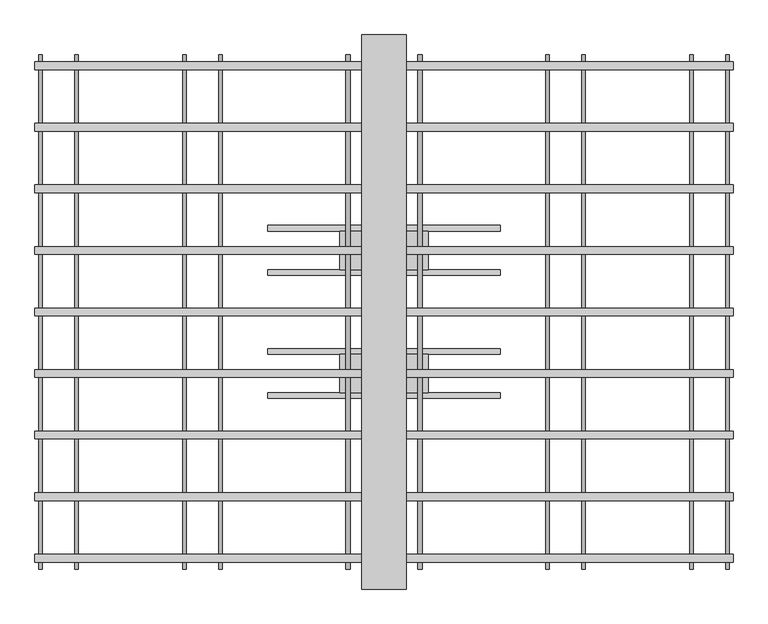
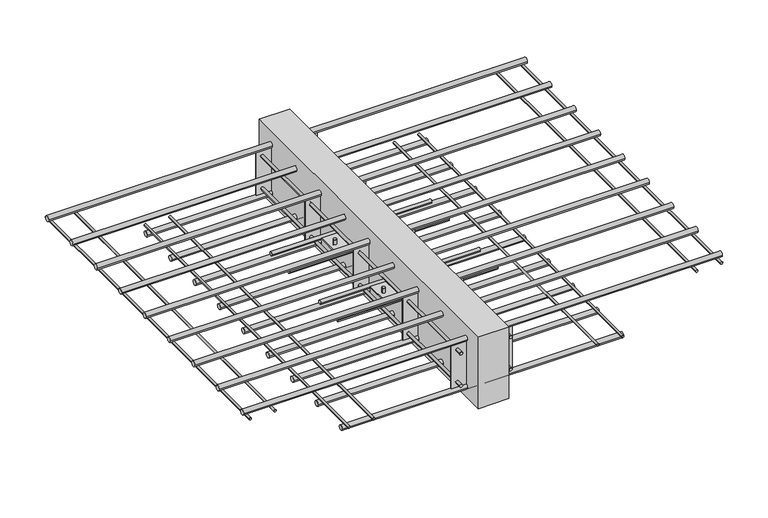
"""IFC4 building model written with IfcOpenShell, lengths in millimetres: proxy geometry, ACINOXplus_Typenreihe_K : KG+ S2."""

from ifc_helpers import new_model, si_unit, point, frame, frame_2d, origin, place, context, project, spatial, polyline, circle_curve, trimmed, segment, composite_curve, outline, extrude, source, transform, mapped, element, save
from ifc_brep_helpers import plane_surface, cylinder_surface, advanced_brep


def generic_models_3308a539(model_context):
    return source(origin(), model_context, "Body", "SolidModel", [
        extrude(outline(composite_curve([segment(trimmed(circle_curve(frame_2d((-151.1111111, -104.0)), 5.0), [point((-156.1111111, -104.0))], [point((-146.1111111, -104.0))], False, "CARTESIAN"), True, "CONTINUOUS"), segment(trimmed(circle_curve(frame_2d((-151.1111111, -104.0)), 5.0), [point((-146.1111111, -104.0))], [point((-156.1111111, -104.0))], False, "CARTESIAN"), True, "CONTINUOUS")], self_intersect=False)), frame((-210.0, 0.0, 0.0), z_axis=(1.0, 0.0, 0.0), x_axis=(0.0, 1.0, 0.0)), (0.0, 0.0, 1.0), 420.0),
        extrude(outline(composite_curve([segment(trimmed(circle_curve(frame_2d((-71.1111111, -104.0)), 5.0), [point((-76.1111111, -104.0))], [point((-66.1111111, -104.0))], False, "CARTESIAN"), True, "CONTINUOUS"), segment(trimmed(circle_curve(frame_2d((-71.1111111, -104.0)), 5.0), [point((-66.1111111, -104.0))], [point((-76.1111111, -104.0))], False, "CARTESIAN"), True, "CONTINUOUS")], self_intersect=False)), frame((-210.0, 0.0, 0.0), z_axis=(1.0, 0.0, 0.0), x_axis=(0.0, 1.0, 0.0)), (0.0, 0.0, 1.0), 420.0),
        advanced_brep(
        [(-69.0, -111.1111111, -89.0), (-61.0, -111.1111111, -89.0), (61.0, -111.1111111, -89.0), (69.0, -111.1111111, -89.0), (-69.0, -111.1111111, -119.0), (-61.0, -111.1111111, -119.0), (61.0, -111.1111111, -119.0), (69.0, -111.1111111, -119.0), (-69.0, -111.1111111, -102.5), (-61.0, -111.1111111, -102.5), (-61.0, -111.1111111, -105.5), (-69.0, -111.1111111, -105.5), (61.0, -111.1111111, -102.5), (69.0, -111.1111111, -102.5), (69.0, -111.1111111, -105.5), (61.0, -111.1111111, -105.5), (80.0, -76.1111111, -102.5), (-80.0, -76.1111111, -102.5), (-80.0, -146.1111111, -102.5), (80.0, -146.1111111, -102.5), (80.0, -76.1111111, -105.5), (80.0, -146.1111111, -105.5), (-80.0, -146.1111111, -105.5), (-80.0, -76.1111111, -105.5)],
        [
            (0, 1, circle_curve(frame((-65.0, -111.1111111, -89.0), z_axis=(0.0, 0.0, 1.0), x_axis=(1.0, 0.0, 0.0)), 4.0)),
            (1, 0, circle_curve(frame((-65.0, -111.1111111, -89.0), z_axis=(0.0, 0.0, 1.0), x_axis=(1.0, 0.0, 0.0)), 4.0)),
            (2, 3, circle_curve(frame((65.0, -111.1111111, -89.0), z_axis=(0.0, 0.0, 1.0), x_axis=(1.0, 0.0, 0.0)), 4.0)),
            (3, 2, circle_curve(frame((65.0, -111.1111111, -89.0), z_axis=(0.0, 0.0, 1.0), x_axis=(1.0, 0.0, 0.0)), 4.0)),
            (4, 5, circle_curve(frame((-65.0, -111.1111111, -119.0), z_axis=(0.0, 0.0, -1.0), x_axis=(1.0, 0.0, 0.0)), 4.0)),
            (5, 4, circle_curve(frame((-65.0, -111.1111111, -119.0), z_axis=(0.0, 0.0, -1.0), x_axis=(1.0, 0.0, 0.0)), 4.0)),
            (6, 7, circle_curve(frame((65.0, -111.1111111, -119.0), z_axis=(0.0, 0.0, -1.0), x_axis=(1.0, 0.0, 0.0)), 4.0)),
            (7, 6, circle_curve(frame((65.0, -111.1111111, -119.0), z_axis=(0.0, 0.0, -1.0), x_axis=(1.0, 0.0, 0.0)), 4.0)),
            (0, 8),
            (8, 9, circle_curve(frame((-65.0, -111.1111111, -102.5), z_axis=(0.0, 0.0, 1.0), x_axis=(1.0, 0.0, 0.0)), 4.0)),
            (9, 1),
            (5, 10),
            (10, 11, circle_curve(frame((-65.0, -111.1111111, -105.5), z_axis=(0.0, 0.0, -1.0), x_axis=(1.0, 0.0, 0.0)), 4.0)),
            (11, 4),
            (9, 8, circle_curve(frame((-65.0, -111.1111111, -102.5), z_axis=(0.0, 0.0, 1.0), x_axis=(1.0, 0.0, 0.0)), 4.0)),
            (11, 10, circle_curve(frame((-65.0, -111.1111111, -105.5), z_axis=(0.0, 0.0, -1.0), x_axis=(1.0, 0.0, 0.0)), 4.0)),
            (2, 12),
            (12, 13, circle_curve(frame((65.0, -111.1111111, -102.5), z_axis=(0.0, 0.0, 1.0), x_axis=(1.0, 0.0, 0.0)), 4.0)),
            (13, 3),
            (7, 14),
            (14, 15, circle_curve(frame((65.0, -111.1111111, -105.5), z_axis=(0.0, 0.0, -1.0), x_axis=(1.0, 0.0, 0.0)), 4.0)),
            (15, 6),
            (13, 12, circle_curve(frame((65.0, -111.1111111, -102.5), z_axis=(0.0, 0.0, 1.0), x_axis=(1.0, 0.0, 0.0)), 4.0)),
            (15, 14, circle_curve(frame((65.0, -111.1111111, -105.5), z_axis=(0.0, 0.0, -1.0), x_axis=(1.0, 0.0, 0.0)), 4.0)),
            (16, 17),
            (17, 18),
            (18, 19),
            (19, 16),
            (20, 21),
            (21, 22),
            (22, 23),
            (23, 20),
            (16, 20),
            (23, 17),
            (22, 18),
            (21, 19),
        ],
        [
            plane_surface(frame((-61.0, -111.1111111, -89.0), z_axis=(0.0, 0.0, 1.0), x_axis=(0.0, 1.0, 0.0))),
            plane_surface(frame((-61.0, -111.1111111, -119.0), z_axis=(0.0, 0.0, -1.0), x_axis=(0.0, -1.0, 0.0))),
            cylinder_surface(frame((-65.0, -111.1111111, -119.0), z_axis=(0.0, 0.0, 1.0), x_axis=(1.0, 0.0, 0.0)), 4.0),
            cylinder_surface(frame((65.0, -111.1111111, -104.0), z_axis=(0.0, 0.0, 1.0), x_axis=(1.0, 0.0, 0.0)), 4.0),
            plane_surface(frame((-80.0, -76.1111111, -102.5), z_axis=(0.0, 0.0, 1.0), x_axis=(-1.0, 0.0, 0.0))),
            plane_surface(frame((-80.0, -76.1111111, -105.5), z_axis=(0.0, 0.0, -1.0), x_axis=(1.0, 0.0, 0.0))),
            plane_surface(frame((80.0, -76.1111111, -102.5), z_axis=(0.0, 1.0, 0.0), x_axis=(0.0, 0.0, -1.0))),
            plane_surface(frame((-80.0, -76.1111111, -102.5), z_axis=(-1.0, 0.0, 0.0), x_axis=(0.0, 0.0, -1.0))),
            plane_surface(frame((-80.0, -146.1111111, -102.5), z_axis=(0.0, -1.0, 0.0), x_axis=(0.0, 0.0, -1.0))),
            plane_surface(frame((80.0, -146.1111111, -102.5), z_axis=(1.0, 0.0, 0.0), x_axis=(0.0, 0.0, -1.0))),
        ],
        [
            (0, [[1, 2]]),
            (0, [[3, 4]]),
            (1, [[5, 6]]),
            (1, [[7, 8]]),
            (2, [[-1, 9, 10, 11]]),
            (2, [[-6, 12, 13, 14]]),
            (2, [[-2, -11, 15, -9]]),
            (2, [[-5, -14, 16, -12]]),
            (3, [[-3, 17, 18, 19]]),
            (3, [[-8, 20, 21, 22]]),
            (3, [[-4, -19, 23, -17]]),
            (3, [[-7, -22, 24, -20]]),
            (4, [[25, 26, 27, 28], [-10, -15], [-18, -23]]),
            (5, [[29, 30, 31, 32], [-13, -16], [-21, -24]]),
            (6, [[-25, 33, -32, 34]]),
            (7, [[-26, -34, -31, 35]]),
            (8, [[-27, -35, -30, 36]]),
            (9, [[-28, -36, -29, -33]]),
        ],
    ),
        extrude(outline(composite_curve([segment(trimmed(circle_curve(frame_2d((71.1111111, -104.0)), 5.0), [point((66.1111111, -104.0))], [point((76.1111111, -104.0))], False, "CARTESIAN"), True, "CONTINUOUS"), segment(trimmed(circle_curve(frame_2d((71.1111111, -104.0)), 5.0), [point((76.1111111, -104.0))], [point((66.1111111, -104.0))], False, "CARTESIAN"), True, "CONTINUOUS")], self_intersect=False)), frame((-210.0, 0.0, 0.0), z_axis=(1.0, 0.0, 0.0), x_axis=(0.0, 1.0, 0.0)), (0.0, 0.0, 1.0), 420.0),
        extrude(outline(composite_curve([segment(trimmed(circle_curve(frame_2d((151.1111111, -104.0)), 5.0), [point((146.1111111, -104.0))], [point((156.1111111, -104.0))], False, "CARTESIAN"), True, "CONTINUOUS"), segment(trimmed(circle_curve(frame_2d((151.1111111, -104.0)), 5.0), [point((156.1111111, -104.0))], [point((146.1111111, -104.0))], False, "CARTESIAN"), True, "CONTINUOUS")], self_intersect=False)), frame((-210.0, 0.0, 0.0), z_axis=(1.0, 0.0, 0.0), x_axis=(0.0, 1.0, 0.0)), (0.0, 0.0, 1.0), 420.0),
        advanced_brep(
        [(-69.0, 111.1111111, -89.0), (-61.0, 111.1111111, -89.0), (61.0, 111.1111111, -89.0), (69.0, 111.1111111, -89.0), (-69.0, 111.1111111, -119.0), (-61.0, 111.1111111, -119.0), (61.0, 111.1111111, -119.0), (69.0, 111.1111111, -119.0), (-69.0, 111.1111111, -102.5), (-61.0, 111.1111111, -102.5), (-61.0, 111.1111111, -105.5), (-69.0, 111.1111111, -105.5), (61.0, 111.1111111, -102.5), (69.0, 111.1111111, -102.5), (69.0, 111.1111111, -105.5), (61.0, 111.1111111, -105.5), (80.0, 146.1111111, -102.5), (-80.0, 146.1111111, -102.5), (-80.0, 76.1111111, -102.5), (80.0, 76.1111111, -102.5), (80.0, 146.1111111, -105.5), (80.0, 76.1111111, -105.5), (-80.0, 76.1111111, -105.5), (-80.0, 146.1111111, -105.5)],
        [
            (0, 1, circle_curve(frame((-65.0, 111.1111111, -89.0), z_axis=(0.0, 0.0, 1.0), x_axis=(1.0, 0.0, 0.0)), 4.0)),
            (1, 0, circle_curve(frame((-65.0, 111.1111111, -89.0), z_axis=(0.0, 0.0, 1.0), x_axis=(1.0, 0.0, 0.0)), 4.0)),
            (2, 3, circle_curve(frame((65.0, 111.1111111, -89.0), z_axis=(0.0, 0.0, 1.0), x_axis=(1.0, 0.0, 0.0)), 4.0)),
            (3, 2, circle_curve(frame((65.0, 111.1111111, -89.0), z_axis=(0.0, 0.0, 1.0), x_axis=(1.0, 0.0, 0.0)), 4.0)),
            (4, 5, circle_curve(frame((-65.0, 111.1111111, -119.0), z_axis=(0.0, 0.0, -1.0), x_axis=(1.0, 0.0, 0.0)), 4.0)),
            (5, 4, circle_curve(frame((-65.0, 111.1111111, -119.0), z_axis=(0.0, 0.0, -1.0), x_axis=(1.0, 0.0, 0.0)), 4.0)),
            (6, 7, circle_curve(frame((65.0, 111.1111111, -119.0), z_axis=(0.0, 0.0, -1.0), x_axis=(1.0, 0.0, 0.0)), 4.0)),
            (7, 6, circle_curve(frame((65.0, 111.1111111, -119.0), z_axis=(0.0, 0.0, -1.0), x_axis=(1.0, 0.0, 0.0)), 4.0)),
            (0, 8),
            (8, 9, circle_curve(frame((-65.0, 111.1111111, -102.5), z_axis=(0.0, 0.0, 1.0), x_axis=(1.0, 0.0, 0.0)), 4.0)),
            (9, 1),
            (5, 10),
            (10, 11, circle_curve(frame((-65.0, 111.1111111, -105.5), z_axis=(0.0, 0.0, -1.0), x_axis=(1.0, 0.0, 0.0)), 4.0)),
            (11, 4),
            (9, 8, circle_curve(frame((-65.0, 111.1111111, -102.5), z_axis=(0.0, 0.0, 1.0), x_axis=(1.0, 0.0, 0.0)), 4.0)),
            (11, 10, circle_curve(frame((-65.0, 111.1111111, -105.5), z_axis=(0.0, 0.0, -1.0), x_axis=(1.0, 0.0, 0.0)), 4.0)),
            (2, 12),
            (12, 13, circle_curve(frame((65.0, 111.1111111, -102.5), z_axis=(0.0, 0.0, 1.0), x_axis=(1.0, 0.0, 0.0)), 4.0)),
            (13, 3),
            (7, 14),
            (14, 15, circle_curve(frame((65.0, 111.1111111, -105.5), z_axis=(0.0, 0.0, -1.0), x_axis=(1.0, 0.0, 0.0)), 4.0)),
            (15, 6),
            (13, 12, circle_curve(frame((65.0, 111.1111111, -102.5), z_axis=(0.0, 0.0, 1.0), x_axis=(1.0, 0.0, 0.0)), 4.0)),
            (15, 14, circle_curve(frame((65.0, 111.1111111, -105.5), z_axis=(0.0, 0.0, -1.0), x_axis=(1.0, 0.0, 0.0)), 4.0)),
            (16, 17),
            (17, 18),
            (18, 19),
            (19, 16),
            (20, 21),
            (21, 22),
            (22, 23),
            (23, 20),
            (16, 20),
            (23, 17),
            (22, 18),
            (21, 19),
        ],
        [
            plane_surface(frame((-61.0, 111.1111111, -89.0), z_axis=(0.0, 0.0, 1.0), x_axis=(0.0, 1.0, 0.0))),
            plane_surface(frame((-61.0, 111.1111111, -119.0), z_axis=(0.0, 0.0, -1.0), x_axis=(0.0, -1.0, 0.0))),
            cylinder_surface(frame((-65.0, 111.1111111, -119.0), z_axis=(0.0, 0.0, 1.0), x_axis=(1.0, 0.0, 0.0)), 4.0),
            cylinder_surface(frame((65.0, 111.1111111, -104.0), z_axis=(0.0, 0.0, 1.0), x_axis=(1.0, 0.0, 0.0)), 4.0),
            plane_surface(frame((-80.0, 146.1111111, -102.5), z_axis=(0.0, 0.0, 1.0), x_axis=(-1.0, 0.0, 0.0))),
            plane_surface(frame((-80.0, 146.1111111, -105.5), z_axis=(0.0, 0.0, -1.0), x_axis=(1.0, 0.0, 0.0))),
            plane_surface(frame((80.0, 146.1111111, -102.5), z_axis=(0.0, 1.0, 0.0), x_axis=(0.0, 0.0, -1.0))),
            plane_surface(frame((-80.0, 146.1111111, -102.5), z_axis=(-1.0, 0.0, 0.0), x_axis=(0.0, 0.0, -1.0))),
            plane_surface(frame((-80.0, 76.1111111, -102.5), z_axis=(0.0, -1.0, 0.0), x_axis=(0.0, 0.0, -1.0))),
            plane_surface(frame((80.0, 76.1111111, -102.5), z_axis=(1.0, 0.0, 0.0), x_axis=(0.0, 0.0, -1.0))),
        ],
        [
            (0, [[1, 2]]),
            (0, [[3, 4]]),
            (1, [[5, 6]]),
            (1, [[7, 8]]),
            (2, [[-1, 9, 10, 11]]),
            (2, [[-6, 12, 13, 14]]),
            (2, [[-2, -11, 15, -9]]),
            (2, [[-5, -14, 16, -12]]),
            (3, [[-3, 17, 18, 19]]),
            (3, [[-8, 20, 21, 22]]),
            (3, [[-4, -19, 23, -17]]),
            (3, [[-7, -22, 24, -20]]),
            (4, [[25, 26, 27, 28], [-10, -15], [-18, -23]]),
            (5, [[29, 30, 31, 32], [-13, -16], [-21, -24]]),
            (6, [[-25, 33, -32, 34]]),
            (7, [[-26, -34, -31, 35]]),
            (8, [[-27, -35, -30, 36]]),
            (9, [[-28, -36, -29, -33]]),
        ],
    ),
        extrude(outline(polyline([(40.0, 500.0), (40.0, -500.0), (-40.0, -500.0), (-40.0, 500.0), (40.0, 500.0)])), frame((0.0, 0.0, -200.0), z_axis=(0.0, 0.0, 1.0), x_axis=(1.0, 0.0, 0.0)), (0.0, 0.0, 1.0), 200.0),
        extrude(outline(polyline([(80.0, -220.7222222), (80.0, -223.7222222), (-80.0, -223.7222222), (-80.0, -220.7222222), (80.0, -220.7222222)])), frame((0.0, 0.0, -164.0), z_axis=(0.0, 0.0, 1.0), x_axis=(1.0, 0.0, 0.0)), (0.0, 0.0, 1.0), 120.0),
        extrude(outline(polyline([(80.0, 1.5), (80.0, -1.5), (-80.0, -1.5), (-80.0, 1.5), (80.0, 1.5)])), frame((0.0, 0.0, -164.0), z_axis=(0.0, 0.0, 1.0), x_axis=(1.0, 0.0, 0.0)), (0.0, 0.0, 1.0), 120.0),
        extrude(outline(polyline([(80.0, 223.7222222), (80.0, 220.7222222), (-80.0, 220.7222222), (-80.0, 223.7222222), (80.0, 223.7222222)])), frame((0.0, 0.0, -164.0), z_axis=(0.0, 0.0, 1.0), x_axis=(1.0, 0.0, 0.0)), (0.0, 0.0, 1.0), 120.0),
        extrude(outline(polyline([(80.0, -442.9444444), (80.0, -445.9444444), (-80.0, -445.9444444), (-80.0, -442.9444444), (80.0, -442.9444444)])), frame((0.0, 0.0, -164.0), z_axis=(0.0, 0.0, 1.0), x_axis=(1.0, 0.0, 0.0)), (0.0, 0.0, 1.0), 120.0),
        extrude(outline(polyline([(80.0, 445.9444444), (80.0, 442.9444444), (-80.0, 442.9444444), (-80.0, 445.9444444), (80.0, 445.9444444)])), frame((0.0, 0.0, -164.0), z_axis=(0.0, 0.0, 1.0), x_axis=(1.0, 0.0, 0.0)), (0.0, 0.0, 1.0), 120.0),
        extrude(outline(composite_curve([segment(trimmed(circle_curve(frame_2d((-149.0, -65.0)), 4.0), [point((-149.0, -61.0))], [point((-149.0, -69.0))], False, "CARTESIAN"), True, "CONTINUOUS"), segment(trimmed(circle_curve(frame_2d((-149.0, -65.0)), 4.0), [point((-149.0, -69.0))], [point((-149.0, -61.0))], False, "CARTESIAN"), True, "CONTINUOUS")], self_intersect=False)), frame((0.0, -464.4444444, 0.0), z_axis=(0.0, 1.0, 0.0), x_axis=(0.0, 0.0, 1.0)), (0.0, 0.0, 1.0), 18.5),
        extrude(outline(composite_curve([segment(trimmed(circle_curve(frame_2d((-149.0, -65.0)), 4.0), [point((-149.0, -69.0))], [point((-149.0, -61.0))], False, "CARTESIAN"), True, "CONTINUOUS"), segment(trimmed(circle_curve(frame_2d((-149.0, -65.0)), 4.0), [point((-149.0, -61.0))], [point((-149.0, -69.0))], False, "CARTESIAN"), True, "CONTINUOUS")], self_intersect=False)), frame((0.0, -442.9444444, 0.0), z_axis=(0.0, 1.0, 0.0), x_axis=(0.0, 0.0, 1.0)), (0.0, 0.0, 1.0), 663.6666667),
        extrude(outline(composite_curve([segment(trimmed(circle_curve(frame_2d((-149.0, -65.0)), 4.0), [point((-149.0, -69.0))], [point((-149.0, -61.0))], False, "CARTESIAN"), True, "CONTINUOUS"), segment(trimmed(circle_curve(frame_2d((-149.0, -65.0)), 4.0), [point((-149.0, -61.0))], [point((-149.0, -69.0))], False, "CARTESIAN"), True, "CONTINUOUS")], self_intersect=False)), frame((0.0, 445.9444444, 0.0), z_axis=(0.0, 1.0, 0.0), x_axis=(0.0, 0.0, 1.0)), (0.0, 0.0, 1.0), 18.5),
        extrude(outline(composite_curve([segment(trimmed(circle_curve(frame_2d((-149.0, -65.0)), 4.0), [point((-149.0, -69.0))], [point((-149.0, -61.0))], False, "CARTESIAN"), True, "CONTINUOUS"), segment(trimmed(circle_curve(frame_2d((-149.0, -65.0)), 4.0), [point((-149.0, -61.0))], [point((-149.0, -69.0))], False, "CARTESIAN"), True, "CONTINUOUS")], self_intersect=False)), frame((0.0, 223.7222222, 0.0), z_axis=(0.0, 1.0, 0.0), x_axis=(0.0, 0.0, 1.0)), (0.0, 0.0, 1.0), 219.2222222),
        extrude(outline(composite_curve([segment(trimmed(circle_curve(frame_2d((-149.0, 65.0)), 4.0), [point((-149.0, 69.0))], [point((-149.0, 61.0))], False, "CARTESIAN"), True, "CONTINUOUS"), segment(trimmed(circle_curve(frame_2d((-149.0, 65.0)), 4.0), [point((-149.0, 61.0))], [point((-149.0, 69.0))], False, "CARTESIAN"), True, "CONTINUOUS")], self_intersect=False)), frame((0.0, -464.4444444, 0.0), z_axis=(0.0, 1.0, 0.0), x_axis=(0.0, 0.0, 1.0)), (0.0, 0.0, 1.0), 18.5),
        extrude(outline(composite_curve([segment(trimmed(circle_curve(frame_2d((-149.0, 65.0)), 4.0), [point((-149.0, 61.0))], [point((-149.0, 69.0))], False, "CARTESIAN"), True, "CONTINUOUS"), segment(trimmed(circle_curve(frame_2d((-149.0, 65.0)), 4.0), [point((-149.0, 69.0))], [point((-149.0, 61.0))], False, "CARTESIAN"), True, "CONTINUOUS")], self_intersect=False)), frame((0.0, -442.9444444, 0.0), z_axis=(0.0, 1.0, 0.0), x_axis=(0.0, 0.0, 1.0)), (0.0, 0.0, 1.0), 663.6666667),
        extrude(outline(composite_curve([segment(trimmed(circle_curve(frame_2d((-149.0, 65.0)), 4.0), [point((-149.0, 61.0))], [point((-149.0, 69.0))], False, "CARTESIAN"), True, "CONTINUOUS"), segment(trimmed(circle_curve(frame_2d((-149.0, 65.0)), 4.0), [point((-149.0, 69.0))], [point((-149.0, 61.0))], False, "CARTESIAN"), True, "CONTINUOUS")], self_intersect=False)), frame((0.0, 445.9444444, 0.0), z_axis=(0.0, 1.0, 0.0), x_axis=(0.0, 0.0, 1.0)), (0.0, 0.0, 1.0), 18.5),
        extrude(outline(composite_curve([segment(trimmed(circle_curve(frame_2d((-149.0, 65.0)), 4.0), [point((-149.0, 61.0))], [point((-149.0, 69.0))], False, "CARTESIAN"), True, "CONTINUOUS"), segment(trimmed(circle_curve(frame_2d((-149.0, 65.0)), 4.0), [point((-149.0, 69.0))], [point((-149.0, 61.0))], False, "CARTESIAN"), True, "CONTINUOUS")], self_intersect=False)), frame((0.0, 223.7222222, 0.0), z_axis=(0.0, 1.0, 0.0), x_axis=(0.0, 0.0, 1.0)), (0.0, 0.0, 1.0), 219.2222222),
        extrude(outline(composite_curve([segment(trimmed(circle_curve(frame_2d((-59.0, -65.0)), 4.0), [point((-59.0, -61.0))], [point((-59.0, -69.0))], False, "CARTESIAN"), True, "CONTINUOUS"), segment(trimmed(circle_curve(frame_2d((-59.0, -65.0)), 4.0), [point((-59.0, -69.0))], [point((-59.0, -61.0))], False, "CARTESIAN"), True, "CONTINUOUS")], self_intersect=False)), frame((0.0, -464.4444444, 0.0), z_axis=(0.0, 1.0, 0.0), x_axis=(0.0, 0.0, 1.0)), (0.0, 0.0, 1.0), 18.5),
        extrude(outline(composite_curve([segment(trimmed(circle_curve(frame_2d((-59.0, -65.0)), 4.0), [point((-59.0, -69.0))], [point((-59.0, -61.0))], False, "CARTESIAN"), True, "CONTINUOUS"), segment(trimmed(circle_curve(frame_2d((-59.0, -65.0)), 4.0), [point((-59.0, -61.0))], [point((-59.0, -69.0))], False, "CARTESIAN"), True, "CONTINUOUS")], self_intersect=False)), frame((0.0, -442.9444444, 0.0), z_axis=(0.0, 1.0, 0.0), x_axis=(0.0, 0.0, 1.0)), (0.0, 0.0, 1.0), 663.6666667),
        extrude(outline(composite_curve([segment(trimmed(circle_curve(frame_2d((-59.0, -65.0)), 4.0), [point((-59.0, -69.0))], [point((-59.0, -61.0))], False, "CARTESIAN"), True, "CONTINUOUS"), segment(trimmed(circle_curve(frame_2d((-59.0, -65.0)), 4.0), [point((-59.0, -61.0))], [point((-59.0, -69.0))], False, "CARTESIAN"), True, "CONTINUOUS")], self_intersect=False)), frame((0.0, 445.9444444, 0.0), z_axis=(0.0, 1.0, 0.0), x_axis=(0.0, 0.0, 1.0)), (0.0, 0.0, 1.0), 18.5),
        extrude(outline(composite_curve([segment(trimmed(circle_curve(frame_2d((-59.0, -65.0)), 4.0), [point((-59.0, -69.0))], [point((-59.0, -61.0))], False, "CARTESIAN"), True, "CONTINUOUS"), segment(trimmed(circle_curve(frame_2d((-59.0, -65.0)), 4.0), [point((-59.0, -61.0))], [point((-59.0, -69.0))], False, "CARTESIAN"), True, "CONTINUOUS")], self_intersect=False)), frame((0.0, 223.7222222, 0.0), z_axis=(0.0, 1.0, 0.0), x_axis=(0.0, 0.0, 1.0)), (0.0, 0.0, 1.0), 219.2222222),
        extrude(outline(composite_curve([segment(trimmed(circle_curve(frame_2d((-59.0, 65.0)), 4.0), [point((-59.0, 69.0))], [point((-59.0, 61.0))], False, "CARTESIAN"), True, "CONTINUOUS"), segment(trimmed(circle_curve(frame_2d((-59.0, 65.0)), 4.0), [point((-59.0, 61.0))], [point((-59.0, 69.0))], False, "CARTESIAN"), True, "CONTINUOUS")], self_intersect=False)), frame((0.0, -464.4444444, 0.0), z_axis=(0.0, 1.0, 0.0), x_axis=(0.0, 0.0, 1.0)), (0.0, 0.0, 1.0), 18.5),
        extrude(outline(composite_curve([segment(trimmed(circle_curve(frame_2d((-59.0, 65.0)), 4.0), [point((-59.0, 61.0))], [point((-59.0, 69.0))], False, "CARTESIAN"), True, "CONTINUOUS"), segment(trimmed(circle_curve(frame_2d((-59.0, 65.0)), 4.0), [point((-59.0, 69.0))], [point((-59.0, 61.0))], False, "CARTESIAN"), True, "CONTINUOUS")], self_intersect=False)), frame((0.0, -442.9444444, 0.0), z_axis=(0.0, 1.0, 0.0), x_axis=(0.0, 0.0, 1.0)), (0.0, 0.0, 1.0), 663.6666667),
        extrude(outline(composite_curve([segment(trimmed(circle_curve(frame_2d((-59.0, 65.0)), 4.0), [point((-59.0, 61.0))], [point((-59.0, 69.0))], False, "CARTESIAN"), True, "CONTINUOUS"), segment(trimmed(circle_curve(frame_2d((-59.0, 65.0)), 4.0), [point((-59.0, 69.0))], [point((-59.0, 61.0))], False, "CARTESIAN"), True, "CONTINUOUS")], self_intersect=False)), frame((0.0, 445.9444444, 0.0), z_axis=(0.0, 1.0, 0.0), x_axis=(0.0, 0.0, 1.0)), (0.0, 0.0, 1.0), 18.5),
        extrude(outline(composite_curve([segment(trimmed(circle_curve(frame_2d((-59.0, 65.0)), 4.0), [point((-59.0, 61.0))], [point((-59.0, 69.0))], False, "CARTESIAN"), True, "CONTINUOUS"), segment(trimmed(circle_curve(frame_2d((-59.0, 65.0)), 4.0), [point((-59.0, 69.0))], [point((-59.0, 61.0))], False, "CARTESIAN"), True, "CONTINUOUS")], self_intersect=False)), frame((0.0, 223.7222222, 0.0), z_axis=(0.0, 1.0, 0.0), x_axis=(0.0, 0.0, 1.0)), (0.0, 0.0, 1.0), 219.2222222),
        extrude(outline(composite_curve([segment(trimmed(circle_curve(frame_2d((222.2222222, -171.0)), 7.0), [point((215.2222222, -171.0))], [point((229.2222222, -171.0))], False, "CARTESIAN"), True, "CONTINUOUS"), segment(trimmed(circle_curve(frame_2d((222.2222222, -171.0)), 7.0), [point((229.2222222, -171.0))], [point((215.2222222, -171.0))], False, "CARTESIAN"), True, "CONTINUOUS")], self_intersect=False)), frame((-370.0, 0.0, 0.0), z_axis=(1.0, 0.0, 0.0), x_axis=(0.0, 1.0, 0.0)), (0.0, 0.0, 1.0), 740.0),
        extrude(outline(composite_curve([segment(trimmed(circle_curve(frame_2d((111.1111111, -171.0)), 7.0), [point((104.1111111, -171.0))], [point((118.1111111, -171.0))], False, "CARTESIAN"), True, "CONTINUOUS"), segment(trimmed(circle_curve(frame_2d((111.1111111, -171.0)), 7.0), [point((118.1111111, -171.0))], [point((104.1111111, -171.0))], False, "CARTESIAN"), True, "CONTINUOUS")], self_intersect=False)), frame((-370.0, 0.0, 0.0), z_axis=(1.0, 0.0, 0.0), x_axis=(0.0, 1.0, 0.0)), (0.0, 0.0, 1.0), 740.0),
        extrude(outline(composite_curve([segment(trimmed(circle_curve(frame_2d((0.0, -171.0)), 7.0), [point((-7.0, -171.0))], [point((7.0, -171.0))], False, "CARTESIAN"), True, "CONTINUOUS"), segment(trimmed(circle_curve(frame_2d((0.0, -171.0)), 7.0), [point((7.0, -171.0))], [point((-7.0, -171.0))], False, "CARTESIAN"), True, "CONTINUOUS")], self_intersect=False)), frame((-370.0, 0.0, 0.0), z_axis=(1.0, 0.0, 0.0), x_axis=(0.0, 1.0, 0.0)), (0.0, 0.0, 1.0), 740.0),
        extrude(outline(composite_curve([segment(trimmed(circle_curve(frame_2d((-111.1111111, -171.0)), 7.0), [point((-118.1111111, -171.0))], [point((-104.1111111, -171.0))], False, "CARTESIAN"), True, "CONTINUOUS"), segment(trimmed(circle_curve(frame_2d((-111.1111111, -171.0)), 7.0), [point((-104.1111111, -171.0))], [point((-118.1111111, -171.0))], False, "CARTESIAN"), True, "CONTINUOUS")], self_intersect=False)), frame((-370.0, 0.0, 0.0), z_axis=(1.0, 0.0, 0.0), x_axis=(0.0, 1.0, 0.0)), (0.0, 0.0, 1.0), 740.0),
        extrude(outline(composite_curve([segment(trimmed(circle_curve(frame_2d((-222.2222222, -171.0)), 7.0), [point((-229.2222222, -171.0))], [point((-215.2222222, -171.0))], False, "CARTESIAN"), True, "CONTINUOUS"), segment(trimmed(circle_curve(frame_2d((-222.2222222, -171.0)), 7.0), [point((-215.2222222, -171.0))], [point((-229.2222222, -171.0))], False, "CARTESIAN"), True, "CONTINUOUS")], self_intersect=False)), frame((-370.0, 0.0, 0.0), z_axis=(1.0, 0.0, 0.0), x_axis=(0.0, 1.0, 0.0)), (0.0, 0.0, 1.0), 740.0),
        extrude(outline(composite_curve([segment(trimmed(circle_curve(frame_2d((333.3333333, -171.0)), 7.0), [point((326.3333333, -171.0))], [point((340.3333333, -171.0))], False, "CARTESIAN"), True, "CONTINUOUS"), segment(trimmed(circle_curve(frame_2d((333.3333333, -171.0)), 7.0), [point((340.3333333, -171.0))], [point((326.3333333, -171.0))], False, "CARTESIAN"), True, "CONTINUOUS")], self_intersect=False)), frame((-370.0, 0.0, 0.0), z_axis=(1.0, 0.0, 0.0), x_axis=(0.0, 1.0, 0.0)), (0.0, 0.0, 1.0), 740.0),
        extrude(outline(composite_curve([segment(trimmed(circle_curve(frame_2d((444.4444444, -171.0)), 7.0), [point((437.4444444, -171.0))], [point((451.4444444, -171.0))], False, "CARTESIAN"), True, "CONTINUOUS"), segment(trimmed(circle_curve(frame_2d((444.4444444, -171.0)), 7.0), [point((451.4444444, -171.0))], [point((437.4444444, -171.0))], False, "CARTESIAN"), True, "CONTINUOUS")], self_intersect=False)), frame((-370.0, 0.0, 0.0), z_axis=(1.0, 0.0, 0.0), x_axis=(0.0, 1.0, 0.0)), (0.0, 0.0, 1.0), 740.0),
        extrude(outline(composite_curve([segment(trimmed(circle_curve(frame_2d((-333.3333333, -171.0)), 7.0), [point((-340.3333333, -171.0))], [point((-326.3333333, -171.0))], False, "CARTESIAN"), True, "CONTINUOUS"), segment(trimmed(circle_curve(frame_2d((-333.3333333, -171.0)), 7.0), [point((-326.3333333, -171.0))], [point((-340.3333333, -171.0))], False, "CARTESIAN"), True, "CONTINUOUS")], self_intersect=False)), frame((-370.0, 0.0, 0.0), z_axis=(1.0, 0.0, 0.0), x_axis=(0.0, 1.0, 0.0)), (0.0, 0.0, 1.0), 740.0),
        extrude(outline(composite_curve([segment(trimmed(circle_curve(frame_2d((-444.4444444, -171.0)), 7.0), [point((-451.4444444, -171.0))], [point((-437.4444444, -171.0))], False, "CARTESIAN"), True, "CONTINUOUS"), segment(trimmed(circle_curve(frame_2d((-444.4444444, -171.0)), 7.0), [point((-437.4444444, -171.0))], [point((-451.4444444, -171.0))], False, "CARTESIAN"), True, "CONTINUOUS")], self_intersect=False)), frame((-370.0, 0.0, 0.0), z_axis=(1.0, 0.0, 0.0), x_axis=(0.0, 1.0, 0.0)), (0.0, 0.0, 1.0), 740.0),
        extrude(outline(composite_curve([segment(trimmed(circle_curve(frame_2d((222.2222222, -37.0)), 7.0), [point((215.2222222, -37.0))], [point((229.2222222, -37.0))], False, "CARTESIAN"), True, "CONTINUOUS"), segment(trimmed(circle_curve(frame_2d((222.2222222, -37.0)), 7.0), [point((229.2222222, -37.0))], [point((215.2222222, -37.0))], False, "CARTESIAN"), True, "CONTINUOUS")], self_intersect=False)), frame((-630.0, 0.0, 0.0), z_axis=(1.0, 0.0, 0.0), x_axis=(0.0, 1.0, 0.0)), (0.0, 0.0, 1.0), 1260.0),
        extrude(outline(composite_curve([segment(trimmed(circle_curve(frame_2d((111.1111111, -37.0)), 7.0), [point((104.1111111, -37.0))], [point((118.1111111, -37.0))], False, "CARTESIAN"), True, "CONTINUOUS"), segment(trimmed(circle_curve(frame_2d((111.1111111, -37.0)), 7.0), [point((118.1111111, -37.0))], [point((104.1111111, -37.0))], False, "CARTESIAN"), True, "CONTINUOUS")], self_intersect=False)), frame((-630.0, 0.0, 0.0), z_axis=(1.0, 0.0, 0.0), x_axis=(0.0, 1.0, 0.0)), (0.0, 0.0, 1.0), 1260.0),
        extrude(outline(composite_curve([segment(trimmed(circle_curve(frame_2d((0.0, -37.0)), 7.0), [point((-7.0, -37.0))], [point((7.0, -37.0))], False, "CARTESIAN"), True, "CONTINUOUS"), segment(trimmed(circle_curve(frame_2d((0.0, -37.0)), 7.0), [point((7.0, -37.0))], [point((-7.0, -37.0))], False, "CARTESIAN"), True, "CONTINUOUS")], self_intersect=False)), frame((-630.0, 0.0, 0.0), z_axis=(1.0, 0.0, 0.0), x_axis=(0.0, 1.0, 0.0)), (0.0, 0.0, 1.0), 1260.0),
        extrude(outline(composite_curve([segment(trimmed(circle_curve(frame_2d((-111.1111111, -37.0)), 7.0), [point((-118.1111111, -37.0))], [point((-104.1111111, -37.0))], False, "CARTESIAN"), True, "CONTINUOUS"), segment(trimmed(circle_curve(frame_2d((-111.1111111, -37.0)), 7.0), [point((-104.1111111, -37.0))], [point((-118.1111111, -37.0))], False, "CARTESIAN"), True, "CONTINUOUS")], self_intersect=False)), frame((-630.0, 0.0, 0.0), z_axis=(1.0, 0.0, 0.0), x_axis=(0.0, 1.0, 0.0)), (0.0, 0.0, 1.0), 1260.0),
        extrude(outline(composite_curve([segment(trimmed(circle_curve(frame_2d((-222.2222222, -37.0)), 7.0), [point((-229.2222222, -37.0))], [point((-215.2222222, -37.0))], False, "CARTESIAN"), True, "CONTINUOUS"), segment(trimmed(circle_curve(frame_2d((-222.2222222, -37.0)), 7.0), [point((-215.2222222, -37.0))], [point((-229.2222222, -37.0))], False, "CARTESIAN"), True, "CONTINUOUS")], self_intersect=False)), frame((-630.0, 0.0, 0.0), z_axis=(1.0, 0.0, 0.0), x_axis=(0.0, 1.0, 0.0)), (0.0, 0.0, 1.0), 1260.0),
        extrude(outline(composite_curve([segment(trimmed(circle_curve(frame_2d((333.3333333, -37.0)), 7.0), [point((326.3333333, -37.0))], [point((340.3333333, -37.0))], False, "CARTESIAN"), True, "CONTINUOUS"), segment(trimmed(circle_curve(frame_2d((333.3333333, -37.0)), 7.0), [point((340.3333333, -37.0))], [point((326.3333333, -37.0))], False, "CARTESIAN"), True, "CONTINUOUS")], self_intersect=False)), frame((-630.0, 0.0, 0.0), z_axis=(1.0, 0.0, 0.0), x_axis=(0.0, 1.0, 0.0)), (0.0, 0.0, 1.0), 1260.0),
        extrude(outline(composite_curve([segment(trimmed(circle_curve(frame_2d((444.4444444, -37.0)), 7.0), [point((437.4444444, -37.0))], [point((451.4444444, -37.0))], False, "CARTESIAN"), True, "CONTINUOUS"), segment(trimmed(circle_curve(frame_2d((444.4444444, -37.0)), 7.0), [point((451.4444444, -37.0))], [point((437.4444444, -37.0))], False, "CARTESIAN"), True, "CONTINUOUS")], self_intersect=False)), frame((-630.0, 0.0, 0.0), z_axis=(1.0, 0.0, 0.0), x_axis=(0.0, 1.0, 0.0)), (0.0, 0.0, 1.0), 1260.0),
        extrude(outline(composite_curve([segment(trimmed(circle_curve(frame_2d((-333.3333333, -37.0)), 7.0), [point((-340.3333333, -37.0))], [point((-326.3333333, -37.0))], False, "CARTESIAN"), True, "CONTINUOUS"), segment(trimmed(circle_curve(frame_2d((-333.3333333, -37.0)), 7.0), [point((-326.3333333, -37.0))], [point((-340.3333333, -37.0))], False, "CARTESIAN"), True, "CONTINUOUS")], self_intersect=False)), frame((-630.0, 0.0, 0.0), z_axis=(1.0, 0.0, 0.0), x_axis=(0.0, 1.0, 0.0)), (0.0, 0.0, 1.0), 1260.0),
        extrude(outline(composite_curve([segment(trimmed(circle_curve(frame_2d((-444.4444444, -37.0)), 7.0), [point((-451.4444444, -37.0))], [point((-437.4444444, -37.0))], False, "CARTESIAN"), True, "CONTINUOUS"), segment(trimmed(circle_curve(frame_2d((-444.4444444, -37.0)), 7.0), [point((-437.4444444, -37.0))], [point((-451.4444444, -37.0))], False, "CARTESIAN"), True, "CONTINUOUS")], self_intersect=False)), frame((-630.0, 0.0, 0.0), z_axis=(1.0, 0.0, 0.0), x_axis=(0.0, 1.0, 0.0)), (0.0, 0.0, 1.0), 1260.0),
        extrude(outline(composite_curve([segment(trimmed(circle_curve(frame_2d((-161.0, -360.0)), 3.0), [point((-161.0, -357.0))], [point((-161.0, -363.0))], False, "CARTESIAN"), True, "CONTINUOUS"), segment(trimmed(circle_curve(frame_2d((-161.0, -360.0)), 3.0), [point((-161.0, -363.0))], [point((-161.0, -357.0))], False, "CARTESIAN"), True, "CONTINUOUS")], self_intersect=False)), frame((0.0, -464.4444444, 0.0), z_axis=(0.0, 1.0, 0.0), x_axis=(0.0, 0.0, 1.0)), (0.0, 0.0, 1.0), 928.8888889),
        extrude(outline(composite_curve([segment(trimmed(circle_curve(frame_2d((-161.0, -295.0)), 3.0), [point((-161.0, -292.0))], [point((-161.0, -298.0))], False, "CARTESIAN"), True, "CONTINUOUS"), segment(trimmed(circle_curve(frame_2d((-161.0, -295.0)), 3.0), [point((-161.0, -298.0))], [point((-161.0, -292.0))], False, "CARTESIAN"), True, "CONTINUOUS")], self_intersect=False)), frame((0.0, -464.4444444, 0.0), z_axis=(0.0, 1.0, 0.0), x_axis=(0.0, 0.0, 1.0)), (0.0, 0.0, 1.0), 928.8888889),
        extrude(outline(composite_curve([segment(trimmed(circle_curve(frame_2d((-161.0, 295.0)), 3.0), [point((-161.0, 298.0))], [point((-161.0, 292.0))], False, "CARTESIAN"), True, "CONTINUOUS"), segment(trimmed(circle_curve(frame_2d((-161.0, 295.0)), 3.0), [point((-161.0, 292.0))], [point((-161.0, 298.0))], False, "CARTESIAN"), True, "CONTINUOUS")], self_intersect=False)), frame((0.0, -464.4444444, 0.0), z_axis=(0.0, 1.0, 0.0), x_axis=(0.0, 0.0, 1.0)), (0.0, 0.0, 1.0), 928.8888889),
        extrude(outline(composite_curve([segment(trimmed(circle_curve(frame_2d((-161.0, 360.0)), 3.0), [point((-161.0, 363.0))], [point((-161.0, 357.0))], False, "CARTESIAN"), True, "CONTINUOUS"), segment(trimmed(circle_curve(frame_2d((-161.0, 360.0)), 3.0), [point((-161.0, 357.0))], [point((-161.0, 363.0))], False, "CARTESIAN"), True, "CONTINUOUS")], self_intersect=False)), frame((0.0, -464.4444444, 0.0), z_axis=(0.0, 1.0, 0.0), x_axis=(0.0, 0.0, 1.0)), (0.0, 0.0, 1.0), 928.8888889),
        extrude(outline(composite_curve([segment(trimmed(circle_curve(frame_2d((-47.0, 555.0)), 3.0), [point((-47.0, 558.0))], [point((-47.0, 552.0))], False, "CARTESIAN"), True, "CONTINUOUS"), segment(trimmed(circle_curve(frame_2d((-47.0, 555.0)), 3.0), [point((-47.0, 552.0))], [point((-47.0, 558.0))], False, "CARTESIAN"), True, "CONTINUOUS")], self_intersect=False)), frame((0.0, -464.4444444, 0.0), z_axis=(0.0, 1.0, 0.0), x_axis=(0.0, 0.0, 1.0)), (0.0, 0.0, 1.0), 928.8888889),
        extrude(outline(composite_curve([segment(trimmed(circle_curve(frame_2d((-47.0, 620.0)), 3.0), [point((-47.0, 623.0))], [point((-47.0, 617.0))], False, "CARTESIAN"), True, "CONTINUOUS"), segment(trimmed(circle_curve(frame_2d((-47.0, 620.0)), 3.0), [point((-47.0, 617.0))], [point((-47.0, 623.0))], False, "CARTESIAN"), True, "CONTINUOUS")], self_intersect=False)), frame((0.0, -464.4444444, 0.0), z_axis=(0.0, 1.0, 0.0), x_axis=(0.0, 0.0, 1.0)), (0.0, 0.0, 1.0), 928.8888889),
        extrude(outline(composite_curve([segment(trimmed(circle_curve(frame_2d((-47.0, -620.0)), 3.0), [point((-47.0, -617.0))], [point((-47.0, -623.0))], False, "CARTESIAN"), True, "CONTINUOUS"), segment(trimmed(circle_curve(frame_2d((-47.0, -620.0)), 3.0), [point((-47.0, -623.0))], [point((-47.0, -617.0))], False, "CARTESIAN"), True, "CONTINUOUS")], self_intersect=False)), frame((0.0, -464.4444444, 0.0), z_axis=(0.0, 1.0, 0.0), x_axis=(0.0, 0.0, 1.0)), (0.0, 0.0, 1.0), 928.8888889),
        extrude(outline(composite_curve([segment(trimmed(circle_curve(frame_2d((-47.0, -555.0)), 3.0), [point((-47.0, -552.0))], [point((-47.0, -558.0))], False, "CARTESIAN"), True, "CONTINUOUS"), segment(trimmed(circle_curve(frame_2d((-47.0, -555.0)), 3.0), [point((-47.0, -558.0))], [point((-47.0, -552.0))], False, "CARTESIAN"), True, "CONTINUOUS")], self_intersect=False)), frame((0.0, -464.4444444, 0.0), z_axis=(0.0, 1.0, 0.0), x_axis=(0.0, 0.0, 1.0)), (0.0, 0.0, 1.0), 928.8888889),
    ])


if __name__ == "__main__":
    model = new_model("IFC4")
    model_context = context("Model", 3, world=origin())
    ifc_project = project(units=[si_unit("LENGTHUNIT", "METRE", prefix="MILLI")], contexts=[model_context])
    site = spatial("IfcSite", under=ifc_project)
    building = spatial("IfcBuilding", under=site)
    placement = place(None, origin())
    generic_models_shape = generic_models_3308a539(model_context)
    element("IfcBuildingElementProxy", 1, Name="ACINOXplus_Typenreihe_K : KG+ S2", ObjectType="ACINOXplus_Typenreihe_K : KG+ S2", at=placement, inside=building, context=model_context, shape_type="MappedRepresentation", body=[
        mapped(generic_models_shape, transform((0.0, 0.0, 0.0), x_axis=(1.0, 0.0, 0.0), y_axis=(0.0, 1.0, 0.0), z_axis=(0.0, 0.0, 1.0))),
    ])
    save(model, "model.ifc")
